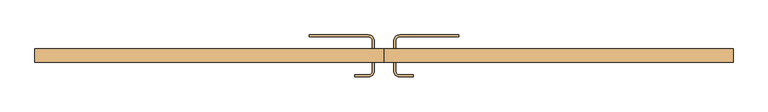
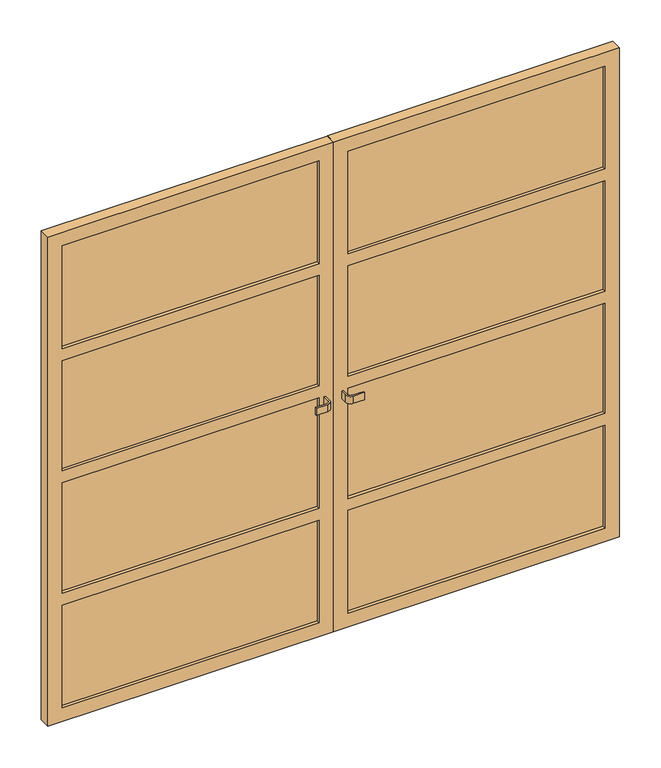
"""IFC4 building model written with IfcOpenShell, lengths in millimetres: door geometry, PUERTA_ACCESO : PUERTA_ACCESO."""

from ifc_helpers import new_model, si_unit, point, frame, frame_2d, origin, place, context, project, spatial, polyline, circle_curve, trimmed, segment, composite_curve, outline, extrude, source, transform, mapped, element, save


def door_a64e3521(model_context):
    return source(origin(), model_context, "Body", "SweptSolid", [
        extrude(outline(polyline([(2055.0, 0.8168501), (0.0, 0.8168501), (0.0, 1136.2405904), (2055.0, 1136.2405904), (2055.0, 0.8168501)]), holes=[polyline([(1997.85, 57.9668501), (1997.85, 1079.0905904), (1566.25, 1079.0905904), (1566.25, 57.9668501), (1997.85, 57.9668501)]), polyline([(488.75, 1079.0905904), (57.15, 1079.0905904), (57.15, 57.9668501), (488.75, 57.9668501), (488.75, 1079.0905904)]), polyline([(1516.25, 1079.0905904), (1052.5, 1079.0905904), (1052.5, 57.9668501), (1516.25, 57.9668501), (1516.25, 1079.0905904)]), polyline([(1002.5, 1079.0905904), (538.75, 1079.0905904), (538.75, 57.9668501), (1002.5, 57.9668501), (1002.5, 1079.0905904)])]), frame((0.0, 15.55, 0.0), z_axis=(0.0, 1.0, 0.0), x_axis=(0.0, 0.0, 1.0)), (0.0, 0.0, 1.0), 44.45),
        extrude(outline(polyline([(2055.0, -0.7706499), (2055.0, -1136.2405904), (0.0, -1136.2405904), (0.0, -0.7706499), (2055.0, -0.7706499)]), holes=[polyline([(1997.85, -1079.0905904), (1997.85, -57.9206499), (1566.25, -57.9206499), (1566.25, -1079.0905904), (1997.85, -1079.0905904)]), polyline([(488.75, -57.9206499), (57.15, -57.9206499), (57.15, -1079.0905904), (488.75, -1079.0905904), (488.75, -57.9206499)]), polyline([(1052.5, -1079.0905904), (1516.25, -1079.0905904), (1516.25, -57.9206499), (1052.5, -57.9206499), (1052.5, -1079.0905904)]), polyline([(538.75, -1079.0905904), (1002.5, -1079.0905904), (1002.5, -57.9206499), (538.75, -57.9206499), (538.75, -1079.0905904)])]), frame((0.0, 15.55, 0.0), z_axis=(0.0, 1.0, 0.0), x_axis=(0.0, 0.0, 1.0)), (0.0, 0.0, 1.0), 44.45),
        extrude(outline(polyline([(1079.0905904, 28.25), (57.9668501, 28.25), (57.9668501, 47.3), (1079.0905904, 47.3), (1079.0905904, 28.25)])), frame((0.0, 0.0, 57.15), z_axis=(0.0, 0.0, 1.0), x_axis=(1.0, 0.0, 0.0)), (0.0, 0.0, 1.0), 1940.7),
        extrude(outline(polyline([(-57.9206499, 28.25), (-1079.0905904, 28.25), (-1079.0905904, 47.3), (-57.9206499, 47.3), (-57.9206499, 28.25)])), frame((0.0, 0.0, 57.15), z_axis=(0.0, 0.0, 1.0), x_axis=(1.0, 0.0, 0.0)), (0.0, 0.0, 1.0), 1940.7),
        extrude(outline(composite_curve([segment(trimmed(circle_curve(frame_2d((-50.7768999, -12.7)), 19.05), [point((-31.7268999, -12.7))], [point((-50.7768999, -31.75))], False, "CARTESIAN"), True, "CONTINUOUS"), segment(polyline([(-50.7768999, -31.75), (-95.2268999, -31.75), (-95.2268999, -25.4), (-50.7768999, -25.4)]), True, "CONTINUOUS"), segment(trimmed(circle_curve(frame_2d((-50.7768999, -12.7)), 12.7), [point((-50.7768999, -25.4))], [point((-38.0768999, -12.7))], True, "CARTESIAN"), True, "CONTINUOUS"), segment(polyline([(-38.0768999, -12.7), (-38.0768999, 15.55), (-31.7268999, 15.55), (-31.7268999, -12.7)]), True, "CONTINUOUS")], self_intersect=False)), frame((0.0, 0.0, 970.0), z_axis=(0.0, 0.0, 1.0), x_axis=(1.0, 0.0, 0.0)), (0.0, 0.0, 1.0), 30.0),
        extrude(outline(composite_curve([segment(polyline([(31.7731001, -12.7), (31.7731001, 15.55), (38.1231001, 15.55), (38.1231001, -12.7)]), True, "CONTINUOUS"), segment(trimmed(circle_curve(frame_2d((50.8231001, -12.7)), 12.7), [point((38.1231001, -12.7))], [point((50.8231001, -25.4))], True, "CARTESIAN"), True, "CONTINUOUS"), segment(polyline([(50.8231001, -25.4), (95.2731001, -25.4), (95.2731001, -31.75), (50.8231001, -31.75)]), True, "CONTINUOUS"), segment(trimmed(circle_curve(frame_2d((50.8231001, -12.7)), 19.05), [point((50.8231001, -31.75))], [point((31.7731001, -12.7))], False, "CARTESIAN"), True, "CONTINUOUS")], self_intersect=False)), frame((0.0, 0.0, 970.0), z_axis=(0.0, 0.0, 1.0), x_axis=(1.0, 0.0, 0.0)), (0.0, 0.0, 1.0), 30.0),
        extrude(outline(composite_curve([segment(polyline([(-31.7268999, 85.4), (-31.7268999, 60.0), (-38.0768999, 60.0), (-38.0768999, 85.4)]), True, "CONTINUOUS"), segment(trimmed(circle_curve(frame_2d((-50.7768999, 85.4)), 12.7), [point((-38.0768999, 85.4))], [point((-50.7768999, 98.1))], True, "CARTESIAN"), True, "CONTINUOUS"), segment(polyline([(-50.7768999, 98.1), (-242.8268999, 98.1), (-242.8268999, 104.45), (-50.7768999, 104.45)]), True, "CONTINUOUS"), segment(trimmed(circle_curve(frame_2d((-50.7768999, 85.4)), 19.05), [point((-50.7768999, 104.45))], [point((-31.7268999, 85.4))], False, "CARTESIAN"), True, "CONTINUOUS")], self_intersect=False)), frame((0.0, 0.0, 970.0), z_axis=(0.0, 0.0, 1.0), x_axis=(1.0, 0.0, 0.0)), (0.0, 0.0, 1.0), 30.0),
        extrude(outline(composite_curve([segment(trimmed(circle_curve(frame_2d((50.8231001, 85.4)), 19.05), [point((31.7731001, 85.4))], [point((50.8231001, 104.45))], False, "CARTESIAN"), True, "CONTINUOUS"), segment(polyline([(50.8231001, 104.45), (243.3915874, 104.45), (243.3915874, 98.1), (50.8231001, 98.1)]), True, "CONTINUOUS"), segment(trimmed(circle_curve(frame_2d((50.8231001, 85.4)), 12.7), [point((50.8231001, 98.1))], [point((38.1231001, 85.4))], True, "CARTESIAN"), True, "CONTINUOUS"), segment(polyline([(38.1231001, 85.4), (38.1231001, 60.0), (31.7731001, 60.0), (31.7731001, 85.4)]), True, "CONTINUOUS")], self_intersect=False)), frame((0.0, 0.0, 970.0), z_axis=(0.0, 0.0, 1.0), x_axis=(1.0, 0.0, 0.0)), (0.0, 0.0, 1.0), 30.0),
    ])


if __name__ == "__main__":
    model = new_model("IFC4")
    model_context = context("Model", 3, world=origin())
    ifc_project = project(units=[si_unit("LENGTHUNIT", "METRE", prefix="MILLI")], contexts=[model_context])
    site = spatial("IfcSite", under=ifc_project)
    building = spatial("IfcBuilding", under=site)
    placement = place(None, origin())
    door_shape = door_a64e3521(model_context)
    element("IfcDoor", 1, ObjectType="PUERTA_ACCESO : PUERTA_ACCESO", at=placement, inside=building, context=model_context, shape_type="MappedRepresentation", body=[
        mapped(door_shape, transform((0.0, 0.0, 0.0), x_axis=(1.0, 0.0, 0.0), y_axis=(0.0, 1.0, 0.0), z_axis=(0.0, 0.0, 1.0))),
    ])
    save(model, "model.ifc")
